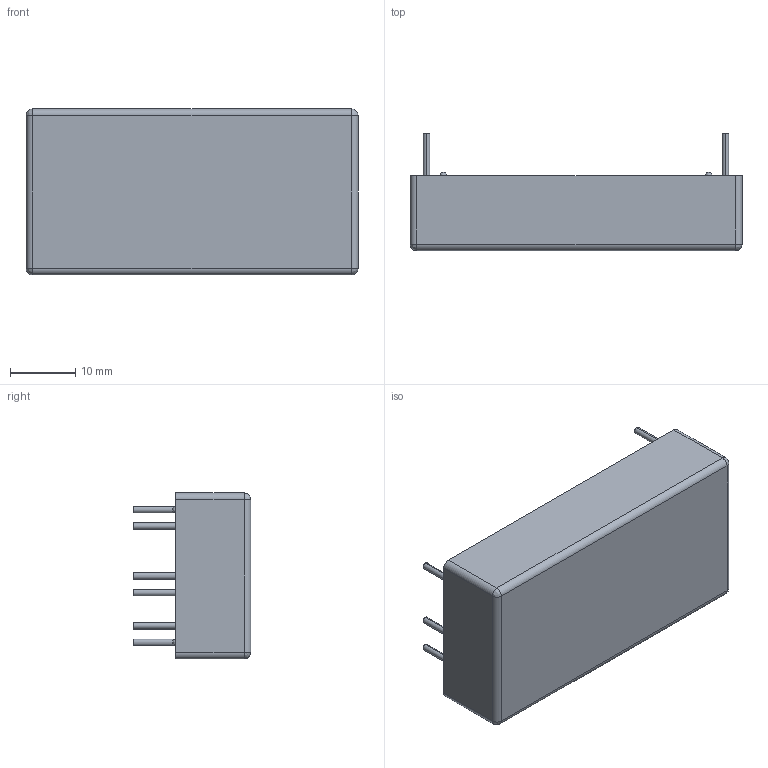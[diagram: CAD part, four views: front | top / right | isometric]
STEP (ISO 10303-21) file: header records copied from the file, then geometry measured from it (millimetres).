
FILE_DESCRIPTION (( 'STEP AP214' ), '1' );
FILE_NAME ('JCK50.STEP', '2017-04-28T13:20:00', ( '' ), ( '' ), 'SwSTEP 2.0', 'SolidWorks 2017', '' );
FILE_SCHEMA (( 'AUTOMOTIVE_DESIGN' ));
Length unit declared in the file: inch
Products named in the file (1): JCK50
Bounding box: 50.8 x 18 x 25.4 mm (x, y, z)
Volume: 14828.5 mm3; surface area: 4372.3 mm2
Topology: 1 solids, 1 shells, 40 faces, 92 edges, 52 vertices
Faces by surface type: cylinder 20, plane 12, bspline 8
Entity records: 1236 total; most frequent: CARTESIAN_POINT 365, DIRECTION 178, ORIENTED_EDGE 160, EDGE_CURVE 80, AXIS2_PLACEMENT_3D 73, VERTEX_POINT 52, EDGE_LOOP 50, CIRCLE 40
